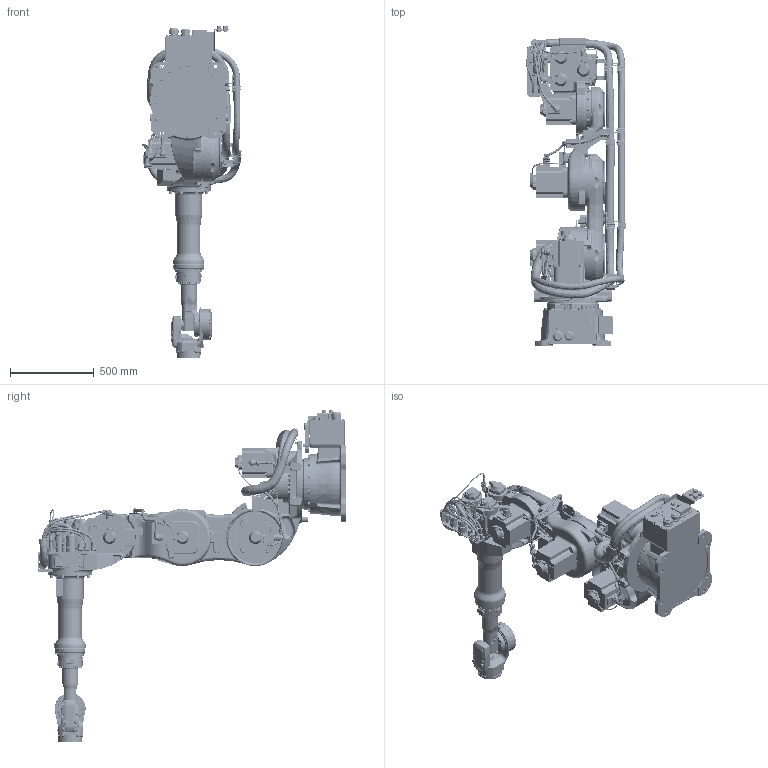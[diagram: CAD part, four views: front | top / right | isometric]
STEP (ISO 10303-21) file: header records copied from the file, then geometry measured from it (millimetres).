
FILE_DESCRIPTION((''),'2;1');
FILE_NAME('ASSY_VIEW_YR-1-07VXB110-A00_ASM','2019-05-10T',('kataokah'),('YASKAWA ELECTRIC CORPORATION'),'PRO/ENGINEER BY PARAMETRIC TECHNOLOGY CORPORATION, 2015030','PRO/ENGINEER BY PARAMETRIC TECHNOLOGY CORPORATION, 2015030','');
FILE_SCHEMA(('CONFIG_CONTROL_DESIGN'));
Products named in the file (9): BASE_VIEW_YR-1-07VXB110-A00; S_VIEW_YR-1-07VXB110-A00; L1_VIEW_YR-1-07VXB110-A00; L2_VIEW_YR-1-07VXB110-A00; U_VIEW_YR-1-07VXB110-A00; R_VIEW_YR-1-07VXB110-A00; B_VIEW_YR-1-07VXB110-A00; T_VIEW_YR-1-07VXB110-A00; ASSY_VIEW_YR-1-07VXB110-A00_ASM
Assembly tree (8 placements, depth 2):
  ASSY_VIEW_YR-1-07VXB110-A00_ASM
    BASE_VIEW_YR-1-07VXB110-A00
    S_VIEW_YR-1-07VXB110-A00
    L1_VIEW_YR-1-07VXB110-A00
    L2_VIEW_YR-1-07VXB110-A00
    U_VIEW_YR-1-07VXB110-A00
    R_VIEW_YR-1-07VXB110-A00
    B_VIEW_YR-1-07VXB110-A00
    T_VIEW_YR-1-07VXB110-A00
Bounding box: 599.25 x 1836 x 1980.8 mm (x, y, z)
Volume: 182734534.8 mm3; surface area: 8078007 mm2
Topology: 14 solids, 99 shells, 13099 faces, 32615 edges, 20499 vertices
Faces by surface type: cylinder 4886, plane 4761, bspline 1338, cone 1188, torus 770, sphere 108, extrusion 32, revolution 16
Entity records: 511872 total; most frequent: CARTESIAN_POINT 203800, ORIENTED_EDGE 64896, DIRECTION 64017, EDGE_CURVE 32526, AXIS2_PLACEMENT_3D 25061, VERTEX_POINT 20497, EDGE_LOOP 14563, VECTOR 13879
